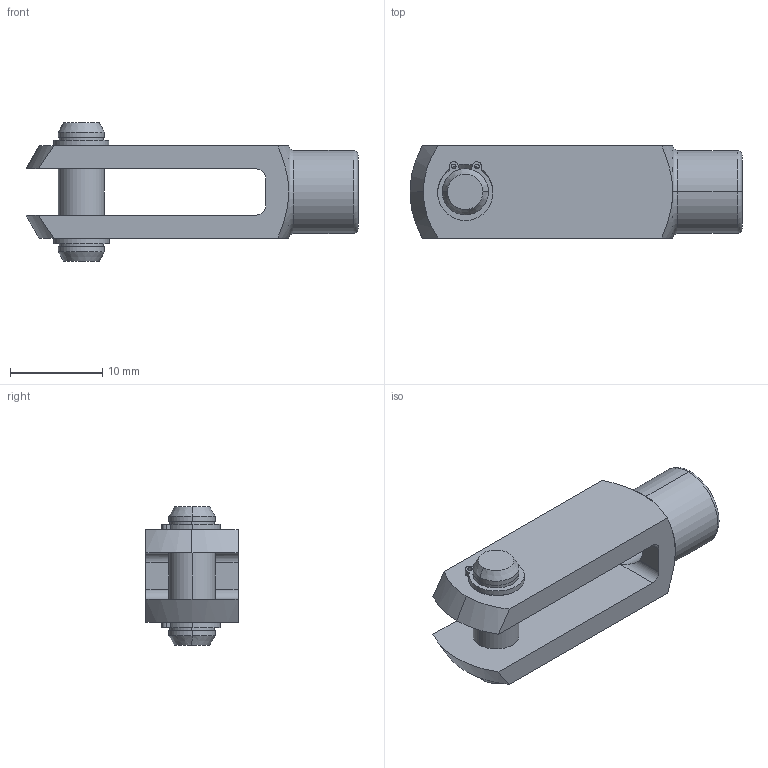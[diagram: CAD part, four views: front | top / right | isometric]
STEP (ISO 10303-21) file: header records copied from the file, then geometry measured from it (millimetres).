
FILE_DESCRIPTION (( 'STEP AP203' ), '1' );
FILE_NAME ('65616.W0052.step', '2014-01-18T10:30:18', ( 'User' ), ( '' ), 'SwSTEP 2.0', 'SolidWorks 2009', '' );
FILE_SCHEMA (( 'CONFIG_CONTROL_DESIGN' ));
Length unit declared in the file: millimetre
Products named in the file (4): 65616.W0052; Part1_65636.W0052; Part2_65666.W0005; Part3_65678.W0005
Assembly tree (4 placements, depth 2):
  65616.W0052
    Part3_65678.W0005  x2
    Part1_65636.W0052
    Part2_65666.W0005
Bounding box: 36 x 10 x 15 mm (x, y, z)
Volume: 1957.7 mm3; surface area: 2172.5 mm2
Topology: 4 solids, 4 shells, 94 faces, 225 edges, 142 vertices
Faces by surface type: cylinder 46, plane 27, cone 17, torus 4
Entity records: 2725 total; most frequent: CARTESIAN_POINT 482, DIRECTION 417, ORIENTED_EDGE 354, EDGE_CURVE 177, AXIS2_PLACEMENT_3D 173, VERTEX_POINT 110, CIRCLE 90, EDGE_LOOP 89
